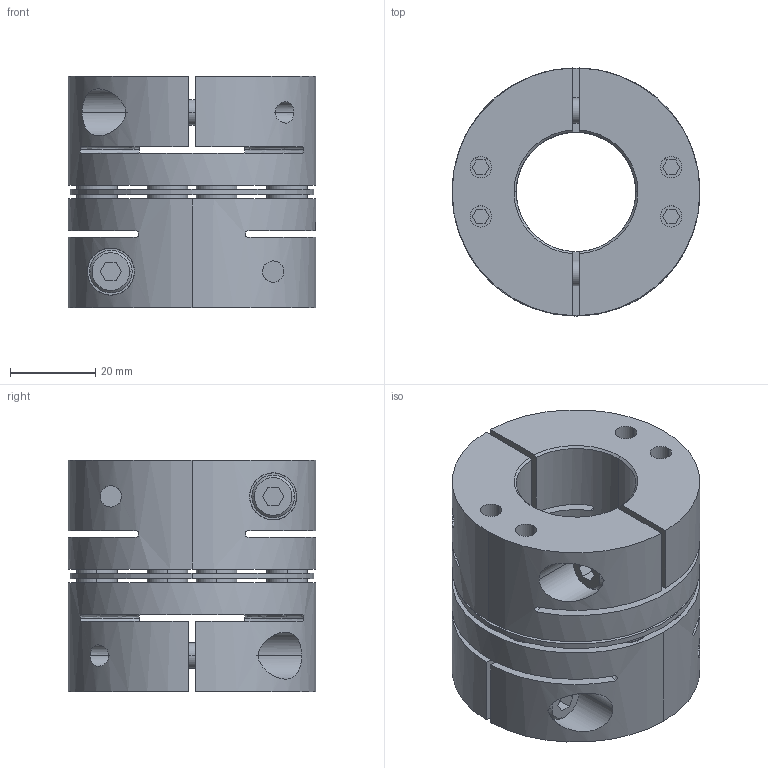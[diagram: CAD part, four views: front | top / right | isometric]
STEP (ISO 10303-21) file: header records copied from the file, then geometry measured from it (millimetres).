
FILE_DESCRIPTION((''),'2;1');
FILE_NAME('TAS-58C-28×28.stp','2022-11-14T22:27:58',(''),(''),'AutoCAD STEP 2000i','AutoCAD 2000i',', , ');
FILE_SCHEMA(('CONFIG_CONTROL_DESIGN'));
Length unit declared in the file: millimetre
Products named in the file (7): TAS-58C-22×22; 忣兜1; TA58C-22-2; CAP-M6×20; TA58C-22; TA58C-12-2; TA58C-12
Assembly tree (9 placements, depth 3):
  TAS-58C-22×22
    忣兜1
    TA58C-22-2
      CAP-M6×20
    TA58C-22
      CAP-M6×20
    TA58C-12-2
      CAP-M6×20
    TA58C-12
      CAP-M6×20
Bounding box: 58 x 58 x 54.25 mm (x, y, z)
Volume: 92322.5 mm3; surface area: 40030.9 mm2
Topology: 1 solids, 1 shells, 360 faces, 903 edges, 645 vertices
Faces by surface type: plane 160, cylinder 148, cone 36, bspline 16
Entity records: 12875 total; most frequent: CARTESIAN_POINT 3843, DIRECTION 1936, ORIENTED_EDGE 1720, EDGE_CURVE 860, AXIS2_PLACEMENT_3D 735, VERTEX_POINT 564, VECTOR 466, LINE 466
